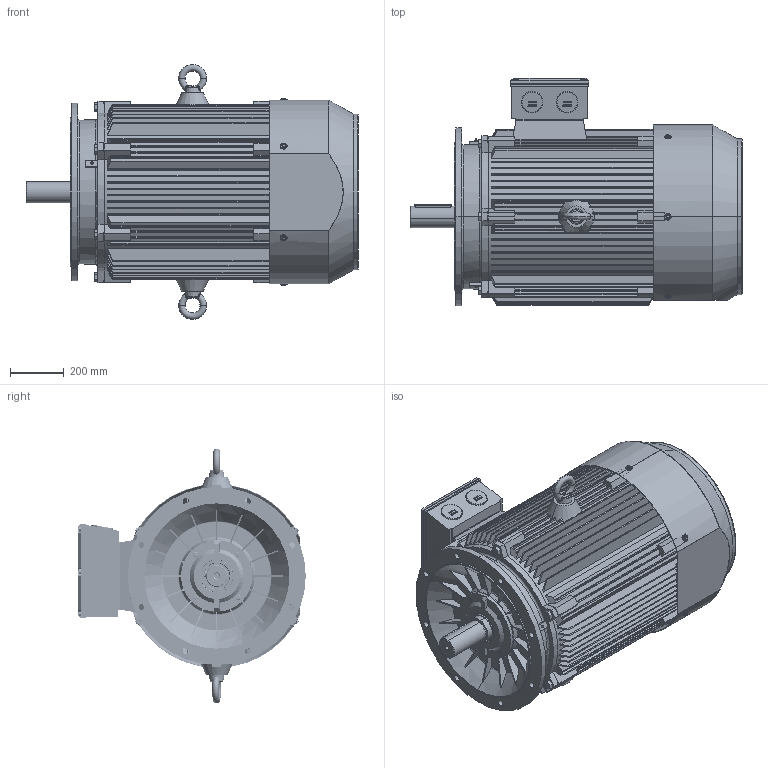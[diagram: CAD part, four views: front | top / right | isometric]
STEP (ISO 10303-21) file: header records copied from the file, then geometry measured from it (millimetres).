
FILE_DESCRIPTION (( 'STEP AP203' ), '1' );
FILE_NAME ('Motor-315S-4_B5_Step.STEP', '2024-06-26T10:13:46', ( '' ), ( '' ), 'SwSTEP 2.0', 'SolidWorks 2021', '' );
FILE_SCHEMA (( 'CONFIG_CONTROL_DESIGN' ));
Length unit declared in the file: millimetre
Products named in the file (22): _________^Motor-315S-4_B5_Step(2)_Motor-315S-4_B5_Step; Motor-315S-4_B5_Step(2)^Motor-315S-4_B5_Step; ___________^Motor-315S-4_B5_Step(2)_Motor-315S-4_B5_Step; TC 315-4_____________^Motor-315S-4_B5_Step(2)_Motor-315S-4_B5_Step; TC 315S ____ B5_____^Motor-315S-4_B5_Step(2)_Motor-315S-4_B5_Step; ___________________^Motor-315S-4_B5_Step(2)_Motor-315S-4_B5_Step; TX315___________________^Motor-315S-4_B5_Step(2)_Motor-315S-4_B5_Step; TC 315S-4_________^Motor-315S-4_B5_Step(2)_Motor-315S-4_B5_Step; M20-70_____^Motor-315S-4_B5_Step(2)_Motor-315S-4_B5_Step; ____M30_____^Motor-315S-4_B5_Step(2)_Motor-315S-4_B5_Step; TC 315-4 B3___________^Motor-315S-4_B5_Step(2)_Motor-315S-4_B5_Step; ____120-95-12_____^Motor-315S-4_B5_Step(2)_Motor-315S-4_B5_Step; TC 315-4_________-1^Motor-315S-4_B5_Step(2)_Motor-315S-4_B5_Step; M10-25_____^Motor-315S-4_B5_Step(2)_Motor-315S-4_B5_Step; M63_________^Motor-315S-4_B5_Step(2)_Motor-315S-4_B5_Step; Motor-315S-4_B5_Step; TX315_______________^Motor-315S-4_B5_Step(2)_Motor-315S-4_B5_Step; M10-90_____^Motor-315S-4_B5_Step(2)_Motor-315S-4_B5_Step; TC 315_____________-0^Motor-315S-4_B5_Step(2)_Motor-315S-4_B5_Step; TC 315-4 B5_________^Motor-315S-4_B5_Step(2)_Motor-315S-4_B5_Step; TC 315-4_________^Motor-315S-4_B5_Step(2)_Motor-315S-4_B5_Step; TC 315_____________^Motor-315S-4_B5_Step(2)_Motor-315S-4_B5_Step
Assembly tree (42 placements, depth 3):
  Motor-315S-4_B5_Step
    Motor-315S-4_B5_Step(2)^Motor-315S-4_B5_Step
      TC 315-4_________^Motor-315S-4_B5_Step(2)_Motor-315S-4_B5_Step
      M20-70_____^Motor-315S-4_B5_Step(2)_Motor-315S-4_B5_Step  x6
      M10-25_____^Motor-315S-4_B5_Step(2)_Motor-315S-4_B5_Step  x6
      TC 315_____________^Motor-315S-4_B5_Step(2)_Motor-315S-4_B5_Step
      ___________________^Motor-315S-4_B5_Step(2)_Motor-315S-4_B5_Step  x6
      TC 315S-4_________^Motor-315S-4_B5_Step(2)_Motor-315S-4_B5_Step
      ____M30_____^Motor-315S-4_B5_Step(2)_Motor-315S-4_B5_Step  x2
      M10-90_____^Motor-315S-4_B5_Step(2)_Motor-315S-4_B5_Step  x4
      TX315_______________^Motor-315S-4_B5_Step(2)_Motor-315S-4_B5_Step
      TC 315-4 B5_________^Motor-315S-4_B5_Step(2)_Motor-315S-4_B5_Step
      _________^Motor-315S-4_B5_Step(2)_Motor-315S-4_B5_Step
      TC 315_____________-0^Motor-315S-4_B5_Step(2)_Motor-315S-4_B5_Step
      ___________^Motor-315S-4_B5_Step(2)_Motor-315S-4_B5_Step
      TC 315S ____ B5_____^Motor-315S-4_B5_Step(2)_Motor-315S-4_B5_Step
      TC 315-4 B3___________^Motor-315S-4_B5_Step(2)_Motor-315S-4_B5_Step
      TC 315-4_____________^Motor-315S-4_B5_Step(2)_Motor-315S-4_B5_Step  x2
      TC 315-4_________-1^Motor-315S-4_B5_Step(2)_Motor-315S-4_B5_Step
      TX315___________________^Motor-315S-4_B5_Step(2)_Motor-315S-4_B5_Step
      M63_________^Motor-315S-4_B5_Step(2)_Motor-315S-4_B5_Step  x2
      ____120-95-12_____^Motor-315S-4_B5_Step(2)_Motor-315S-4_B5_Step
Bounding box: 1232 x 844 x 946 mm (x, y, z)
Volume: 95844072.1 mm3; surface area: 12160566.3 mm2
Topology: 42 solids, 42 shells, 7713 faces, 21592 edges, 14161 vertices
Faces by surface type: plane 5574, cylinder 858, cone 452, torus 403, sphere 244, bspline 182
Entity records: 283804 total; most frequent: CARTESIAN_POINT 94032, ORIENTED_EDGE 40526, DIRECTION 34815, EDGE_CURVE 20263, VECTOR 15079, LINE 15079, VERTEX_POINT 13333, AXIS2_PLACEMENT_3D 9868
